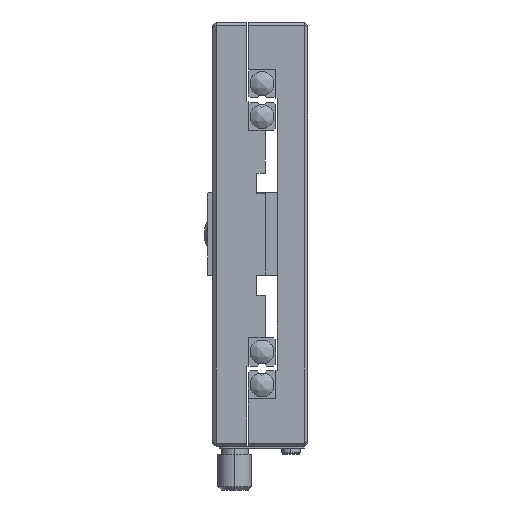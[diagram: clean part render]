
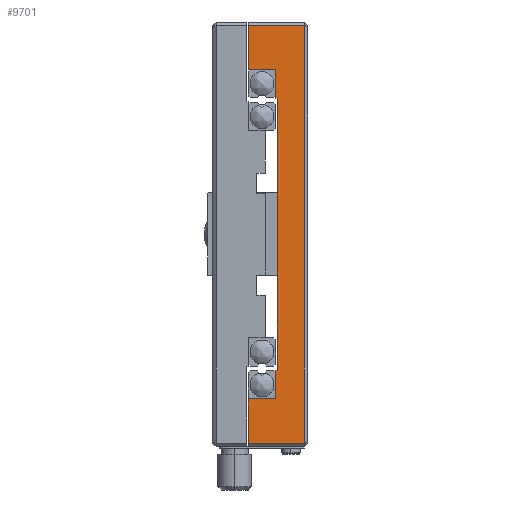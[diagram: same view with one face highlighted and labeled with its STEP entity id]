
A CAD part, left-side view. The second image highlights one B-rep face of the part: STEP entity #9701.
In plain terms, the highlighted planar face has unit normal (-1, 0, 0).
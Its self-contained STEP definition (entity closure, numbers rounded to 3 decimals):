
#119 = EDGE_CURVE ( 'NONE', #7617, #7711, #13906, .T. ) ;
#269 = VECTOR ( 'NONE', #3153, 1000. ) ;
#684 = EDGE_CURVE ( 'NONE', #11000, #9044, #4357, .T. ) ;
#788 = EDGE_LOOP ( 'NONE', ( #10192, #8146, #3986, #2900, #2489, #5709, #2442, #3056, #1778, #7941, #6458, #7035 ) ) ;
#822 = DIRECTION ( 'NONE',  ( 0., -1., 0. ) ) ;
#950 = CARTESIAN_POINT ( 'NONE',  ( -62.5, 17.5, 48.5 ) ) ;
#963 = EDGE_CURVE ( 'NONE', #3195, #1520, #12031, .T. ) ;
#1110 = CARTESIAN_POINT ( 'NONE',  ( -62.5, 17.5, -61.5 ) ) ;
#1309 = LINE ( 'NONE', #5895, #6074 ) ;
#1520 = VERTEX_POINT ( 'NONE', #13301 ) ;
#1630 = CARTESIAN_POINT ( 'NONE',  ( -62.5, 1., 61.5 ) ) ;
#1778 = ORIENTED_EDGE ( 'NONE', *, *, #963, .T. ) ;
#1878 = CARTESIAN_POINT ( 'NONE',  ( -62.5, 17.5, 61.5 ) ) ;
#1932 = EDGE_CURVE ( 'NONE', #7217, #4699, #12277, .T. ) ;
#2442 = ORIENTED_EDGE ( 'NONE', *, *, #1932, .F. ) ;
#2489 = ORIENTED_EDGE ( 'NONE', *, *, #684, .F. ) ;
#2498 = EDGE_CURVE ( 'NONE', #4699, #11000, #12333, .T. ) ;
#2576 = CARTESIAN_POINT ( 'NONE',  ( -62.5, 17.5, -61.5 ) ) ;
#2606 = LINE ( 'NONE', #9180, #8950 ) ;
#2619 = CARTESIAN_POINT ( 'NONE',  ( -62.5, 9.5, -48.5 ) ) ;
#2739 = EDGE_CURVE ( 'NONE', #7711, #6129, #8040, .T. ) ;
#2826 = VERTEX_POINT ( 'NONE', #13066 ) ;
#2879 = DIRECTION ( 'NONE',  ( 0., 1., 0. ) ) ;
#2900 = ORIENTED_EDGE ( 'NONE', *, *, #5117, .T. ) ;
#3056 = ORIENTED_EDGE ( 'NONE', *, *, #12448, .F. ) ;
#3122 = EDGE_CURVE ( 'NONE', #12703, #2826, #1309, .T. ) ;
#3153 = DIRECTION ( 'NONE',  ( 0., 1., 0. ) ) ;
#3195 = VERTEX_POINT ( 'NONE', #13208 ) ;
#3437 = VECTOR ( 'NONE', #8865, 1000. ) ;
#3511 = CARTESIAN_POINT ( 'NONE',  ( -62.5, 17.5, -48.5 ) ) ;
#3624 = VECTOR ( 'NONE', #4932, 1000. ) ;
#3986 = ORIENTED_EDGE ( 'NONE', *, *, #6601, .F. ) ;
#4266 = AXIS2_PLACEMENT_3D ( 'NONE', #4960, #9567, #14158 ) ;
#4357 = LINE ( 'NONE', #1878, #7725 ) ;
#4487 = CARTESIAN_POINT ( 'NONE',  ( -62.5, 17.5, -61.5 ) ) ;
#4572 = EDGE_CURVE ( 'NONE', #6129, #2826, #10964, .T. ) ;
#4699 = VERTEX_POINT ( 'NONE', #950 ) ;
#4712 = DIRECTION ( 'NONE',  ( 0., -1., 0. ) ) ;
#4795 = CARTESIAN_POINT ( 'NONE',  ( -62.5, 9., 40. ) ) ;
#4932 = DIRECTION ( 'NONE',  ( 0., -1., 0. ) ) ;
#4960 = CARTESIAN_POINT ( 'NONE',  ( -62.5, 17.5, -61.5 ) ) ;
#5010 = CARTESIAN_POINT ( 'NONE',  ( -62.5, 9.5, -61.5 ) ) ;
#5117 = EDGE_CURVE ( 'NONE', #11071, #9044, #12975, .T. ) ;
#5565 = VECTOR ( 'NONE', #5613, 1000. ) ;
#5613 = DIRECTION ( 'NONE',  ( 0., 0., 1. ) ) ;
#5709 = ORIENTED_EDGE ( 'NONE', *, *, #2498, .F. ) ;
#5755 = DIRECTION ( 'NONE',  ( 0., 1., 0. ) ) ;
#5895 = CARTESIAN_POINT ( 'NONE',  ( -62.5, 9.5, -40. ) ) ;
#6074 = VECTOR ( 'NONE', #5755, 1000. ) ;
#6090 = PLANE ( 'NONE',  #4266 ) ;
#6129 = VERTEX_POINT ( 'NONE', #2619 ) ;
#6458 = ORIENTED_EDGE ( 'NONE', *, *, #3122, .T. ) ;
#6601 = EDGE_CURVE ( 'NONE', #11071, #7617, #10855, .T. ) ;
#7035 = ORIENTED_EDGE ( 'NONE', *, *, #4572, .F. ) ;
#7217 = VERTEX_POINT ( 'NONE', #9098 ) ;
#7409 = CARTESIAN_POINT ( 'NONE',  ( -62.5, 1., -61.5 ) ) ;
#7474 = CARTESIAN_POINT ( 'NONE',  ( -62.5, 17.5, -48.5 ) ) ;
#7478 = CARTESIAN_POINT ( 'NONE',  ( -62.5, 17.5, 61.5 ) ) ;
#7584 = DIRECTION ( 'NONE',  ( 0., 0., 1. ) ) ;
#7617 = VERTEX_POINT ( 'NONE', #2576 ) ;
#7711 = VERTEX_POINT ( 'NONE', #7474 ) ;
#7725 = VECTOR ( 'NONE', #822, 1000. ) ;
#7767 = LINE ( 'NONE', #14842, #13504 ) ;
#7941 = ORIENTED_EDGE ( 'NONE', *, *, #11909, .F. ) ;
#8040 = LINE ( 'NONE', #3511, #8483 ) ;
#8126 = DIRECTION ( 'NONE',  ( 0., 0., 1. ) ) ;
#8146 = ORIENTED_EDGE ( 'NONE', *, *, #119, .F. ) ;
#8483 = VECTOR ( 'NONE', #4712, 1000. ) ;
#8657 = FACE_OUTER_BOUND ( 'NONE', #788, .T. ) ;
#8865 = DIRECTION ( 'NONE',  ( 0., 0., 1. ) ) ;
#8950 = VECTOR ( 'NONE', #8126, 1000. ) ;
#9044 = VERTEX_POINT ( 'NONE', #1630 ) ;
#9098 = CARTESIAN_POINT ( 'NONE',  ( -62.5, 9.5, 48.5 ) ) ;
#9180 = CARTESIAN_POINT ( 'NONE',  ( -62.5, 9.5, -61.5 ) ) ;
#9221 = CARTESIAN_POINT ( 'NONE',  ( -62.5, 9., -40. ) ) ;
#9567 = DIRECTION ( 'NONE',  ( 1., 0., 0. ) ) ;
#9666 = DIRECTION ( 'NONE',  ( 0., 0., 1. ) ) ;
#9701 = ADVANCED_FACE ( 'NONE', ( #8657 ), #6090, .F. ) ;
#10173 = DIRECTION ( 'NONE',  ( 0., 0., 1. ) ) ;
#10192 = ORIENTED_EDGE ( 'NONE', *, *, #2739, .F. ) ;
#10855 = LINE ( 'NONE', #14248, #12155 ) ;
#10964 = LINE ( 'NONE', #5010, #11127 ) ;
#11000 = VERTEX_POINT ( 'NONE', #7478 ) ;
#11071 = VERTEX_POINT ( 'NONE', #13578 ) ;
#11127 = VECTOR ( 'NONE', #7584, 1000. ) ;
#11631 = VECTOR ( 'NONE', #9666, 1000. ) ;
#11909 = EDGE_CURVE ( 'NONE', #12703, #1520, #7767, .T. ) ;
#12031 = LINE ( 'NONE', #4795, #3624 ) ;
#12155 = VECTOR ( 'NONE', #2879, 1000. ) ;
#12277 = LINE ( 'NONE', #14602, #269 ) ;
#12333 = LINE ( 'NONE', #1110, #3437 ) ;
#12448 = EDGE_CURVE ( 'NONE', #3195, #7217, #2606, .T. ) ;
#12703 = VERTEX_POINT ( 'NONE', #9221 ) ;
#12975 = LINE ( 'NONE', #7409, #11631 ) ;
#13066 = CARTESIAN_POINT ( 'NONE',  ( -62.5, 9.5, -40. ) ) ;
#13208 = CARTESIAN_POINT ( 'NONE',  ( -62.5, 9.5, 40. ) ) ;
#13301 = CARTESIAN_POINT ( 'NONE',  ( -62.5, 9., 40. ) ) ;
#13504 = VECTOR ( 'NONE', #10173, 1000. ) ;
#13578 = CARTESIAN_POINT ( 'NONE',  ( -62.5, 1., -61.5 ) ) ;
#13906 = LINE ( 'NONE', #4487, #5565 ) ;
#14158 = DIRECTION ( 'NONE',  ( 0., 0., -1. ) ) ;
#14248 = CARTESIAN_POINT ( 'NONE',  ( -62.5, 17.5, -61.5 ) ) ;
#14602 = CARTESIAN_POINT ( 'NONE',  ( -62.5, 17.5, 48.5 ) ) ;
#14842 = CARTESIAN_POINT ( 'NONE',  ( -62.5, 9., -61.5 ) ) ;
